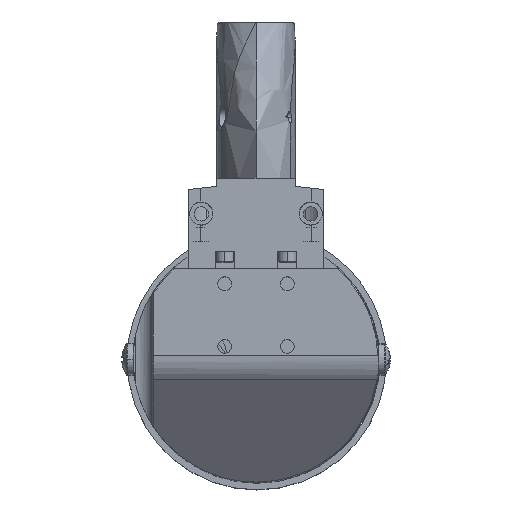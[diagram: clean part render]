
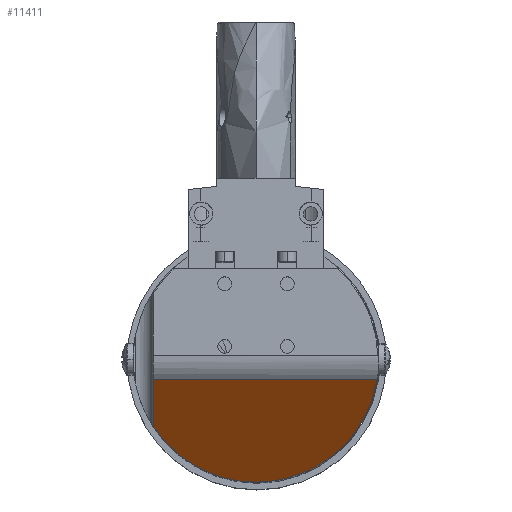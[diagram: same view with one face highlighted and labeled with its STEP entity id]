
A CAD part, top view. The second image highlights one B-rep face of the part: STEP entity #11411.
In plain terms, the highlighted planar face has unit normal (0, -0.643, 0.766).
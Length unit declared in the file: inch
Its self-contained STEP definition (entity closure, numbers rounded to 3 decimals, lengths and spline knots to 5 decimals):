
#141 = LINE ( 'NONE', #12946, #13412 ) ;
#476 = CARTESIAN_POINT ( 'NONE',  ( 1.10335, -1.5713, -0.60524 ) ) ;
#736 = LINE ( 'NONE', #22534, #15365 ) ;
#1866 = EDGE_CURVE ( 'NONE', #7089, #23177, #4490, .T. ) ;
#2480 = ORIENTED_EDGE ( 'NONE', *, *, #15165, .F. ) ;
#2533 = ORIENTED_EDGE ( 'NONE', *, *, #11594, .T. ) ;
#2567 = CARTESIAN_POINT ( 'NONE',  ( -1.025, -1.42082, -0.47898 ) ) ;
#2702 = AXIS2_PLACEMENT_3D ( 'NONE', #7919, #6114, #11521 ) ;
#2828 = VERTEX_POINT ( 'NONE', #2567 ) ;
#3291 = ORIENTED_EDGE ( 'NONE', *, *, #13260, .F. ) ;
#4490 =( BOUNDED_CURVE ( )  B_SPLINE_CURVE ( 3, ( #9096, #476, #13155, #16414 ),
 .UNSPECIFIED., .F., .F. ) 
 B_SPLINE_CURVE_WITH_KNOTS ( ( 4, 4 ),
 ( 1.73857, 3.14159 ),
 .UNSPECIFIED. ) 
 CURVE ( )  GEOMETRIC_REPRESENTATION_ITEM ( )  RATIONAL_B_SPLINE_CURVE ( ( 1., 0.843, 0.843, 1. ) ) 
 REPRESENTATION_ITEM ( '' )  );
#4834 =( BOUNDED_CURVE ( )  B_SPLINE_CURVE ( 3, ( #5453, #10710, #23677, #10835 ),
 .UNSPECIFIED., .F., .F. ) 
 B_SPLINE_CURVE_WITH_KNOTS ( ( 4, 4 ),
 ( 3.14159, 4.13289 ),
 .UNSPECIFIED. ) 
 CURVE ( )  GEOMETRIC_REPRESENTATION_ITEM ( )  RATIONAL_B_SPLINE_CURVE ( ( 1., 0.92, 0.92, 1. ) ) 
 REPRESENTATION_ITEM ( '' )  );
#5453 = CARTESIAN_POINT ( 'NONE',  ( 0., -1.975, -0.94399 ) ) ;
#6114 = DIRECTION ( 'NONE',  ( 0., 0.643, -0.766 ) ) ;
#7089 = VERTEX_POINT ( 'NONE', #18546 ) ;
#7730 = CARTESIAN_POINT ( 'NONE',  ( -1.025, -0.95456, -0.08773 ) ) ;
#7919 = CARTESIAN_POINT ( 'NONE',  ( 1.225, -1.975, -0.94399 ) ) ;
#9096 = CARTESIAN_POINT ( 'NONE',  ( 1.2078, -0.95456, -0.08773 ) ) ;
#9740 = VERTEX_POINT ( 'NONE', #7730 ) ;
#10710 = CARTESIAN_POINT ( 'NONE',  ( -0.42229, -1.975, -0.94399 ) ) ;
#10835 = CARTESIAN_POINT ( 'NONE',  ( -1.025, -1.42082, -0.47898 ) ) ;
#11377 = DIRECTION ( 'NONE',  ( 0., 0.766, 0.643 ) ) ;
#11411 = ADVANCED_FACE ( 'NONE', ( #22559 ), #17039, .F. ) ;
#11521 = DIRECTION ( 'NONE',  ( 0., 0.766, 0.643 ) ) ;
#11594 = EDGE_CURVE ( 'NONE', #7089, #9740, #141, .T. ) ;
#12946 = CARTESIAN_POINT ( 'NONE',  ( -1.225, -0.95456, -0.08773 ) ) ;
#13155 = CARTESIAN_POINT ( 'NONE',  ( 0.62553, -1.975, -0.94399 ) ) ;
#13260 = EDGE_CURVE ( 'NONE', #2828, #9740, #736, .T. ) ;
#13335 = EDGE_LOOP ( 'NONE', ( #22212, #2533, #3291, #2480 ) ) ;
#13412 = VECTOR ( 'NONE', #20255, 39.37008 ) ;
#15165 = EDGE_CURVE ( 'NONE', #23177, #2828, #4834, .T. ) ;
#15365 = VECTOR ( 'NONE', #11377, 39.37008 ) ;
#16414 = CARTESIAN_POINT ( 'NONE',  ( 0., -1.975, -0.94399 ) ) ;
#17039 = PLANE ( 'NONE',  #2702 ) ;
#18546 = CARTESIAN_POINT ( 'NONE',  ( 1.2078, -0.95456, -0.08773 ) ) ;
#19436 = CARTESIAN_POINT ( 'NONE',  ( 0., -1.975, -0.94399 ) ) ;
#20255 = DIRECTION ( 'NONE',  ( -1., 0., 0. ) ) ;
#22212 = ORIENTED_EDGE ( 'NONE', *, *, #1866, .F. ) ;
#22534 = CARTESIAN_POINT ( 'NONE',  ( -1.025, -0.86545, -0.01296 ) ) ;
#22559 = FACE_OUTER_BOUND ( 'NONE', #13335, .T. ) ;
#23177 = VERTEX_POINT ( 'NONE', #19436 ) ;
#23677 = CARTESIAN_POINT ( 'NONE',  ( -0.79375, -1.77416, -0.77546 ) ) ;
